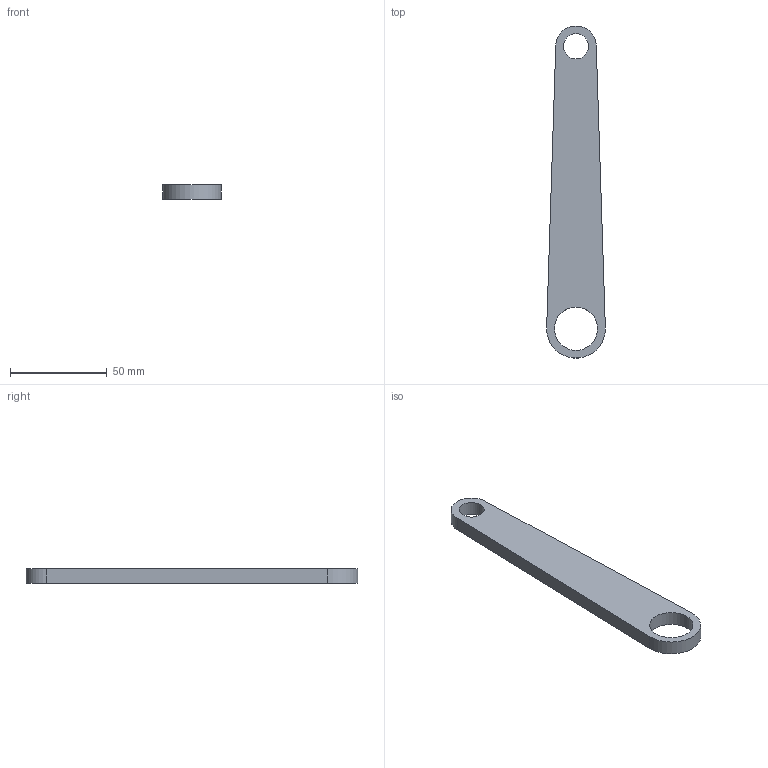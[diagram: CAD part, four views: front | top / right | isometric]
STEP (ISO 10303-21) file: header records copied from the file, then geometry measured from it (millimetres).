
FILE_DESCRIPTION(('STEP AP242 Edition 2','STEP AP242 Edition 2''CAx-IF Rec.Pracs.---Representation and Presentation of Product Manufacturing Information (PMI)---4.0---2014-10-13','STEP AP242 Edition 2''CAx-IF Rec.Pracs.---Representation and Presentation of Product Manufacturing Information (PMI)---4.0---2014-10-13''CAx-IF Rec.Pracs.---3D Tessellated Geometry---0.4---2014-09-14','STEP AP242 Edition 2''CAx-IF Rec.Pracs.---Representation and Presentation of Product Manufacturing Information (PMI)---4.0---2014-10-13''CAx-IF Rec.Pracs.---3D Tessellated Geometry---0.4---2014-09-14''2;1','STEP AP242 Edition 2''CAx-IF Rec.Pracs.---Representation and Presentation of Product Manufacturing Information (PMI)---4.0---2014-10-13''CAx-IF Rec.Pracs.---3D Tessellated Geometry---0.4---2014-09-14''2;1''CAx-IF Rec.Pracs.---User Defined Attributes---1.5---2016-08-15'),'2;1');
FILE_NAME('/vol/tmp/translate-17459121042689540201/Draw Bot V3 - Left L2 Arm.step','2026-03-21T23:30:54',(''),(''),'ST-DEVELOPER v20','ONSHAPE BY PTC INC, 1.212',' ');
FILE_SCHEMA(('AP242_MANAGED_MODEL_BASED_3D_ENGINEERING_MIM_LF { 1 0 10303 442 3 1 4 }'));
Length unit declared in the file: millimetre
Products named in the file (1): Left L2 Arm
Bounding box: 30.38 x 171.9 x 7.5 mm (x, y, z)
Volume: 28267.9 mm3; surface area: 11172.6 mm2
Topology: 1 solids, 1 shells, 8 faces, 18 edges, 12 vertices
Faces by surface type: plane 4, cylinder 4
Full cylindrical faces by diameter (mm): 13 x1, 22.4 x1
Entity records: 250 total; most frequent: DIRECTION 42, CARTESIAN_POINT 37, ORIENTED_EDGE 32, AXIS2_PLACEMENT_3D 17, EDGE_CURVE 16, EDGE_LOOP 14, FACE_BOUND 14, VERTEX_POINT 12
